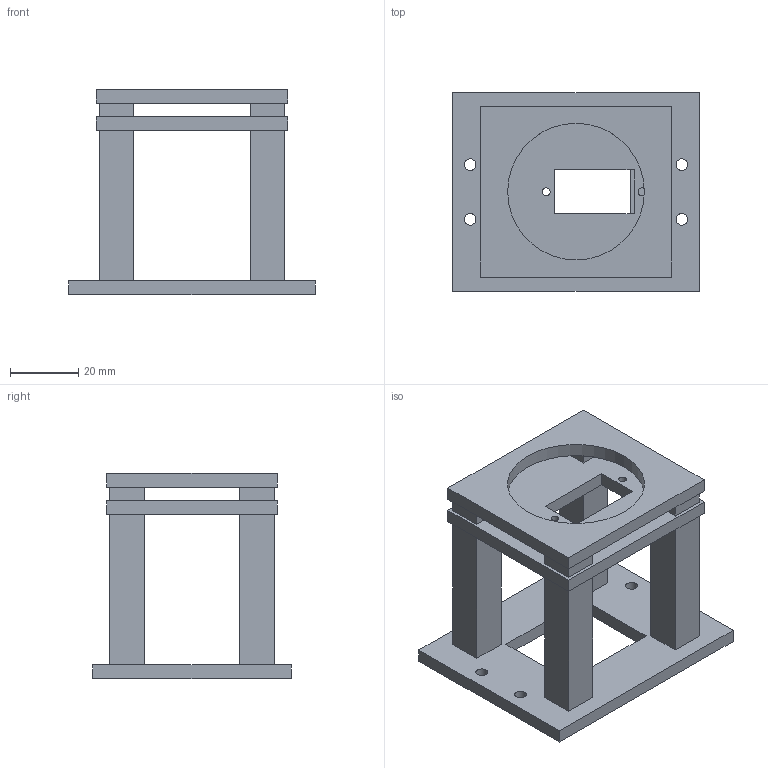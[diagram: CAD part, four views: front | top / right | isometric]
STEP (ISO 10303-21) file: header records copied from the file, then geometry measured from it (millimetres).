
FILE_DESCRIPTION(('FreeCAD Model'),'2;1');
FILE_NAME('Open CASCADE Shape Model','2026-11-07T00:59:44',('FreeCAD'),( 'FreeCAD'),'Open CASCADE STEP processor 7.8','FreeCAD','Unknown');
FILE_SCHEMA(('AUTOMOTIVE_DESIGN { 1 0 10303 214 1 1 1 1 }'));
Length unit declared in the file: millimetre
Products named in the file (1): Open CASCADE STEP translator 7.8 3
Bounding box: 72 x 58 x 60 mm (x, y, z)
Volume: 48572.9 mm3; surface area: 24987.4 mm2
Topology: 1 solids, 1 shells, 65 faces, 177 edges, 118 vertices
Faces by surface type: plane 58, cylinder 7
Full cylindrical faces by diameter (mm): 2.3 x2, 3.4 x4, 40 x1
Entity records: 2095 total; most frequent: CARTESIAN_POINT 361, ORIENTED_EDGE 354, DIRECTION 323, EDGE_CURVE 177, LINE 163, VECTOR 163, VERTEX_POINT 118, FACE_BOUND 99
